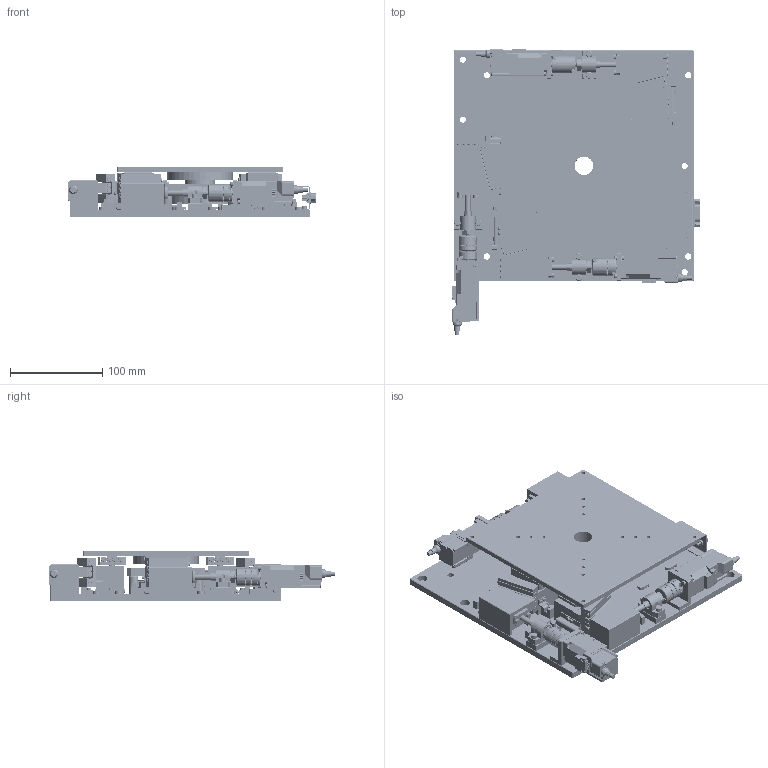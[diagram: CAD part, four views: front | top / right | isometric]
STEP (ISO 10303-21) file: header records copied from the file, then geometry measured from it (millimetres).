
FILE_DESCRIPTION (( 'STEP AP203' ), '1' );
FILE_NAME ('NAFHW3C-16(Servo)_HP—p.STEP', '2023-09-11T06:59:07', ( '' ), ( '' ), 'SwSTEP 2.0', 'SolidWorks 2023', '' );
FILE_SCHEMA (( 'CONFIG_CONTROL_DESIGN' ));
Length unit declared in the file: millimetre
Products named in the file (1): NAFHW3C-16(Servo)_HP用
Bounding box: 269 x 310.5 x 54.97 mm (x, y, z)
Surface area: 403145.1 mm2 (no closed solid volume)
Topology: 0 solids, 14 shells, 4880 faces, 12247 edges, 7704 vertices
Faces by surface type: plane 2784, cylinder 1369, cone 381, torus 280, bspline 66
Entity records: 148411 total; most frequent: CARTESIAN_POINT 28949, DIRECTION 25639, ORIENTED_EDGE 24482, EDGE_CURVE 12247, AXIS2_PLACEMENT_3D 9068, VERTEX_POINT 7704, LINE 7503, VECTOR 7503
